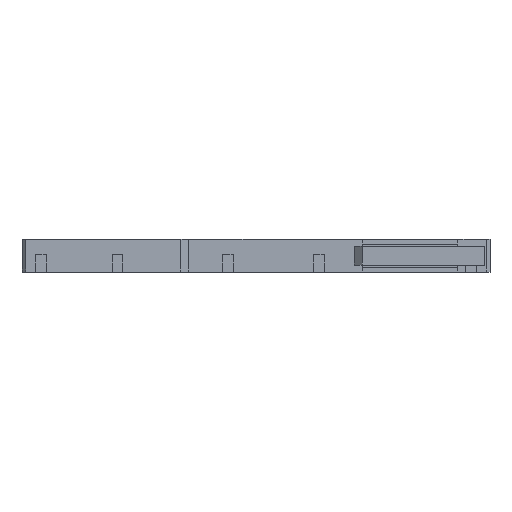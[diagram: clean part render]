
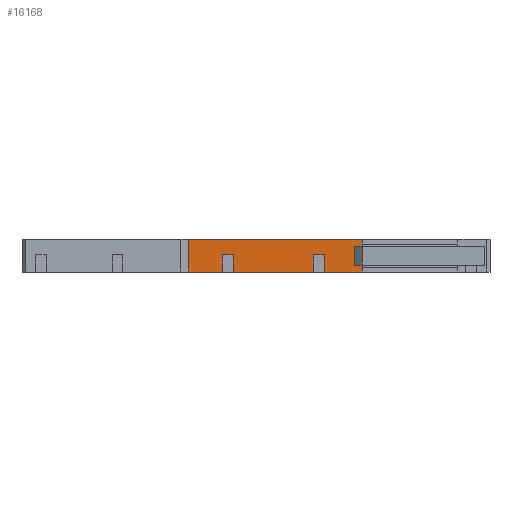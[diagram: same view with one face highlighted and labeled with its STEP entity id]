
A CAD part, front view. The second image highlights one B-rep face of the part: STEP entity #16168.
In plain terms, the highlighted planar face has unit normal (0, -1, 0).
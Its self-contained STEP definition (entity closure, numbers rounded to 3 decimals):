
#44 = ORIENTED_EDGE ( 'NONE', *, *, #15990, .T. ) ;
#49 = EDGE_CURVE ( 'NONE', #16205, #7485, #1467, .T. ) ;
#78 = LINE ( 'NONE', #7933, #16824 ) ;
#319 = VERTEX_POINT ( 'NONE', #10712 ) ;
#647 = VERTEX_POINT ( 'NONE', #13661 ) ;
#897 = DIRECTION ( 'NONE',  ( 0., 0., 1. ) ) ;
#905 = LINE ( 'NONE', #10188, #6834 ) ;
#1001 = CARTESIAN_POINT ( 'NONE',  ( 15.5, 3.5, -3.15 ) ) ;
#1252 = VERTEX_POINT ( 'NONE', #6839 ) ;
#1404 = CARTESIAN_POINT ( 'NONE',  ( -19.5, 3.5, 3.15 ) ) ;
#1467 = LINE ( 'NONE', #2905, #18197 ) ;
#1471 = VERTEX_POINT ( 'NONE', #9978 ) ;
#1497 = LINE ( 'NONE', #1404, #12088 ) ;
#1743 = EDGE_CURVE ( 'NONE', #7651, #5333, #78, .T. ) ;
#2122 = EDGE_CURVE ( 'NONE', #4095, #10723, #7420, .T. ) ;
#2138 = CARTESIAN_POINT ( 'NONE',  ( -11.5, 3.5, -3.15 ) ) ;
#2307 = ORIENTED_EDGE ( 'NONE', *, *, #2122, .F. ) ;
#2842 = DIRECTION ( 'NONE',  ( 0., 0., 1. ) ) ;
#2905 = CARTESIAN_POINT ( 'NONE',  ( 8.2, 3.5, 0.15 ) ) ;
#3146 = DIRECTION ( 'NONE',  ( 0., 0., 1. ) ) ;
#3292 = ORIENTED_EDGE ( 'NONE', *, *, #49, .T. ) ;
#3344 = VECTOR ( 'NONE', #2842, 1000. ) ;
#3427 = DIRECTION ( 'NONE',  ( -1., 0., 0. ) ) ;
#3867 = DIRECTION ( 'NONE',  ( 0., 0., -1. ) ) ;
#4082 = VERTEX_POINT ( 'NONE', #17702 ) ;
#4095 = VERTEX_POINT ( 'NONE', #8324 ) ;
#4582 = DIRECTION ( 'NONE',  ( -1., 0., 0. ) ) ;
#4667 = DIRECTION ( 'NONE',  ( 0., 0., -1. ) ) ;
#5066 = DIRECTION ( 'NONE',  ( -1., 0., 0. ) ) ;
#5208 = VERTEX_POINT ( 'NONE', #13431 ) ;
#5247 = ORIENTED_EDGE ( 'NONE', *, *, #7922, .F. ) ;
#5333 = VERTEX_POINT ( 'NONE', #8940 ) ;
#5938 = VECTOR ( 'NONE', #7140, 1000. ) ;
#5996 = LINE ( 'NONE', #18532, #3344 ) ;
#5998 = DIRECTION ( 'NONE',  ( -1., 0., 0. ) ) ;
#6175 = ORIENTED_EDGE ( 'NONE', *, *, #6696, .F. ) ;
#6215 = LINE ( 'NONE', #16926, #10455 ) ;
#6331 = VECTOR ( 'NONE', #9639, 1000. ) ;
#6594 = LINE ( 'NONE', #17291, #6331 ) ;
#6696 = EDGE_CURVE ( 'NONE', #319, #5208, #10688, .T. ) ;
#6834 = VECTOR ( 'NONE', #3867, 1000. ) ;
#6839 = CARTESIAN_POINT ( 'NONE',  ( 6.1, 3.5, 0.15 ) ) ;
#7140 = DIRECTION ( 'NONE',  ( -1., 0., 0. ) ) ;
#7221 = VECTOR ( 'NONE', #4667, 1000. ) ;
#7420 = LINE ( 'NONE', #13629, #15315 ) ;
#7485 = VERTEX_POINT ( 'NONE', #15141 ) ;
#7531 = CARTESIAN_POINT ( 'NONE',  ( -9.4, 3.5, 0.15 ) ) ;
#7554 = ORIENTED_EDGE ( 'NONE', *, *, #18575, .F. ) ;
#7651 = VERTEX_POINT ( 'NONE', #12272 ) ;
#7922 = EDGE_CURVE ( 'NONE', #1252, #1471, #905, .T. ) ;
#7923 = CARTESIAN_POINT ( 'NONE',  ( 0., 3.5, -3.15 ) ) ;
#7933 = CARTESIAN_POINT ( 'NONE',  ( 15.5, 3.5, -3.15 ) ) ;
#8118 = LINE ( 'NONE', #7923, #12037 ) ;
#8324 = CARTESIAN_POINT ( 'NONE',  ( -11.5, 3.5, 0.15 ) ) ;
#8603 = LINE ( 'NONE', #16241, #15593 ) ;
#8940 = CARTESIAN_POINT ( 'NONE',  ( 15.5, 3.5, 3.15 ) ) ;
#9057 = LINE ( 'NONE', #13339, #5938 ) ;
#9480 = AXIS2_PLACEMENT_3D ( 'NONE', #14339, #12804, #5066 ) ;
#9639 = DIRECTION ( 'NONE',  ( -1., 0., 0. ) ) ;
#9978 = CARTESIAN_POINT ( 'NONE',  ( 6.1, 3.5, -3.15 ) ) ;
#10188 = CARTESIAN_POINT ( 'NONE',  ( 6.1, 3.5, 0.15 ) ) ;
#10455 = VECTOR ( 'NONE', #4582, 1000. ) ;
#10688 = LINE ( 'NONE', #15575, #12900 ) ;
#10712 = CARTESIAN_POINT ( 'NONE',  ( -19.5, 3.5, -3.15 ) ) ;
#10723 = VERTEX_POINT ( 'NONE', #2138 ) ;
#11113 = VECTOR ( 'NONE', #897, 1000. ) ;
#11559 = DIRECTION ( 'NONE',  ( -1., 0., 0. ) ) ;
#12037 = VECTOR ( 'NONE', #3427, 1000. ) ;
#12088 = VECTOR ( 'NONE', #5998, 1000. ) ;
#12095 = DIRECTION ( 'NONE',  ( 0., 0., -1. ) ) ;
#12272 = CARTESIAN_POINT ( 'NONE',  ( 15.5, 3.5, 2.25 ) ) ;
#12411 = DIRECTION ( 'NONE',  ( 0., 0., 1. ) ) ;
#12554 = EDGE_CURVE ( 'NONE', #19525, #7651, #5996, .T. ) ;
#12614 = EDGE_LOOP ( 'NONE', ( #17693, #3292, #16820, #17937, #18864, #16929, #44, #6175, #15897, #2307, #7554, #13112, #17697, #5247 ) ) ;
#12649 = EDGE_CURVE ( 'NONE', #4082, #7485, #8118, .T. ) ;
#12660 = DIRECTION ( 'NONE',  ( 0., 0., -1. ) ) ;
#12804 = DIRECTION ( 'NONE',  ( 0., 1., 0. ) ) ;
#12900 = VECTOR ( 'NONE', #3146, 1000. ) ;
#13021 = LINE ( 'NONE', #1001, #11113 ) ;
#13112 = ORIENTED_EDGE ( 'NONE', *, *, #16015, .T. ) ;
#13118 = FACE_OUTER_BOUND ( 'NONE', #12614, .T. ) ;
#13339 = CARTESIAN_POINT ( 'NONE',  ( 0., 3.5, -3.15 ) ) ;
#13431 = CARTESIAN_POINT ( 'NONE',  ( -19.5, 3.5, 3.15 ) ) ;
#13629 = CARTESIAN_POINT ( 'NONE',  ( -11.5, 3.5, 0.15 ) ) ;
#13661 = CARTESIAN_POINT ( 'NONE',  ( -9.4, 3.5, -3.15 ) ) ;
#14339 = CARTESIAN_POINT ( 'NONE',  ( -19.5, 3.5, -3.15 ) ) ;
#14846 = CARTESIAN_POINT ( 'NONE',  ( 15.5, 3.5, -2.25 ) ) ;
#15141 = CARTESIAN_POINT ( 'NONE',  ( 8.2, 3.5, -3.15 ) ) ;
#15315 = VECTOR ( 'NONE', #12095, 1000. ) ;
#15408 = EDGE_CURVE ( 'NONE', #1471, #647, #8603, .T. ) ;
#15575 = CARTESIAN_POINT ( 'NONE',  ( -19.5, 3.5, -3.15 ) ) ;
#15593 = VECTOR ( 'NONE', #11559, 1000. ) ;
#15760 = PLANE ( 'NONE',  #9480 ) ;
#15822 = EDGE_CURVE ( 'NONE', #10723, #319, #9057, .T. ) ;
#15897 = ORIENTED_EDGE ( 'NONE', *, *, #15822, .F. ) ;
#15990 = EDGE_CURVE ( 'NONE', #5333, #5208, #1497, .T. ) ;
#16015 = EDGE_CURVE ( 'NONE', #19970, #647, #17096, .T. ) ;
#16168 = ADVANCED_FACE ( 'NONE', ( #13118 ), #15760, .F. ) ;
#16205 = VERTEX_POINT ( 'NONE', #17912 ) ;
#16224 = EDGE_CURVE ( 'NONE', #16205, #1252, #6215, .T. ) ;
#16241 = CARTESIAN_POINT ( 'NONE',  ( 0., 3.5, -3.15 ) ) ;
#16516 = EDGE_CURVE ( 'NONE', #4082, #19525, #13021, .T. ) ;
#16820 = ORIENTED_EDGE ( 'NONE', *, *, #12649, .F. ) ;
#16824 = VECTOR ( 'NONE', #12411, 1000. ) ;
#16926 = CARTESIAN_POINT ( 'NONE',  ( 8.2, 3.5, 0.15 ) ) ;
#16929 = ORIENTED_EDGE ( 'NONE', *, *, #1743, .T. ) ;
#17096 = LINE ( 'NONE', #7531, #7221 ) ;
#17291 = CARTESIAN_POINT ( 'NONE',  ( -9.4, 3.5, 0.15 ) ) ;
#17621 = CARTESIAN_POINT ( 'NONE',  ( -9.4, 3.5, 0.15 ) ) ;
#17693 = ORIENTED_EDGE ( 'NONE', *, *, #16224, .F. ) ;
#17697 = ORIENTED_EDGE ( 'NONE', *, *, #15408, .F. ) ;
#17702 = CARTESIAN_POINT ( 'NONE',  ( 15.5, 3.5, -3.15 ) ) ;
#17912 = CARTESIAN_POINT ( 'NONE',  ( 8.2, 3.5, 0.15 ) ) ;
#17937 = ORIENTED_EDGE ( 'NONE', *, *, #16516, .T. ) ;
#18197 = VECTOR ( 'NONE', #12660, 1000. ) ;
#18532 = CARTESIAN_POINT ( 'NONE',  ( 15.5, 3.5, -3.15 ) ) ;
#18575 = EDGE_CURVE ( 'NONE', #19970, #4095, #6594, .T. ) ;
#18864 = ORIENTED_EDGE ( 'NONE', *, *, #12554, .T. ) ;
#19525 = VERTEX_POINT ( 'NONE', #14846 ) ;
#19970 = VERTEX_POINT ( 'NONE', #17621 ) ;
